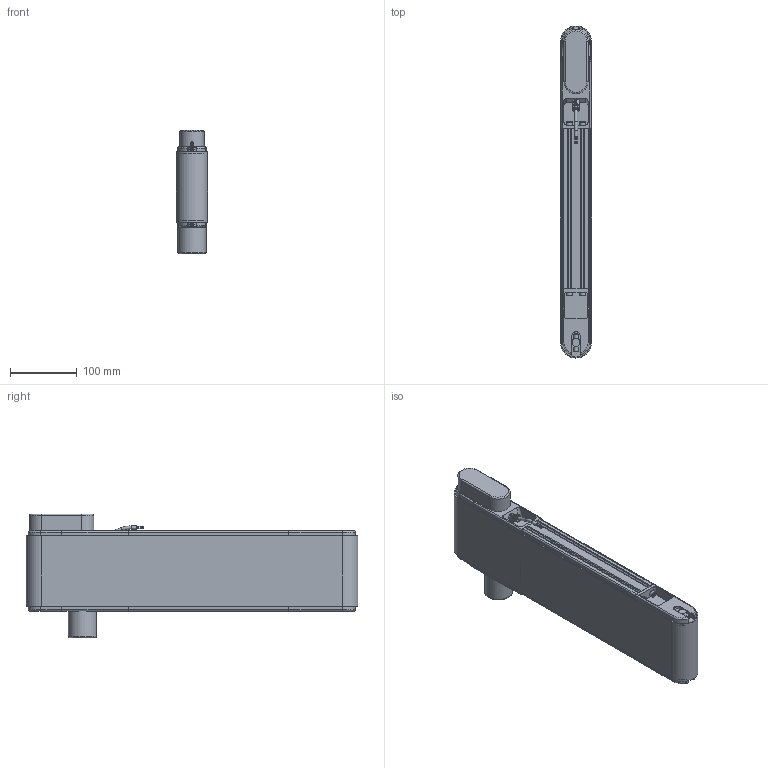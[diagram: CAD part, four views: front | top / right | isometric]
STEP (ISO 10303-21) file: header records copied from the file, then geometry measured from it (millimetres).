
FILE_DESCRIPTION(/* description */ (''),/* implementation_level */ '2;1');
FILE_NAME(/* name */ 'G:\DATEN\CAD\Förderband\Marketing\3D-Modelle (Standard)\FR-40-120-Q\FR-40-120-Q-450-K (Motorendrohr 40 mm).stp',/* time_stamp */ '2019-05-09T08:26:56+02:00',/* author */ ('melanie.ochs'),/* organization */ (''),/* preprocessor_version */ 'ST-DEVELOPER v17',/* originating_system */ 'Autodesk Inventor 2019',/* authorisation */ '');
FILE_SCHEMA (('CONFIG_CONTROL_DESIGN'));
Length unit declared in the file: millimetre
Products named in the file (1): FR-40-120-Q-450-K (Motorendrohr 40 mm)
Bounding box: 46.6 x 496.6 x 185 mm (x, y, z)
Volume: 1584132.1 mm3; surface area: 612916.6 mm2
Topology: 31 solids, 32 shells, 869 faces, 2355 edges, 1600 vertices
Faces by surface type: plane 439, cylinder 274, cone 65, bspline 61, torus 30
Full cylindrical faces by diameter (mm): 1 x6, 4 x6, 4.3 x4, 4.65 x1, 4.917 x1, 5 x11, 5.5 x8, 6 x2, 6.5 x1, 6.773 x1, 6.917 x2, 8 x7, 8.3 x8, 8.5 x8, 8.773 x1, 10 x1, 11 x1, 12 x3, 25 x2, 28 x4, 40.917 x1, 42 x1, 44 x2
Entity records: 29133 total; most frequent: CARTESIAN_POINT 6163, ORIENTED_EDGE 4674, DIRECTION 4526, EDGE_CURVE 2337, AXIS2_PLACEMENT_3D 1637, VERTEX_POINT 1600, LINE 1252, VECTOR 1252
